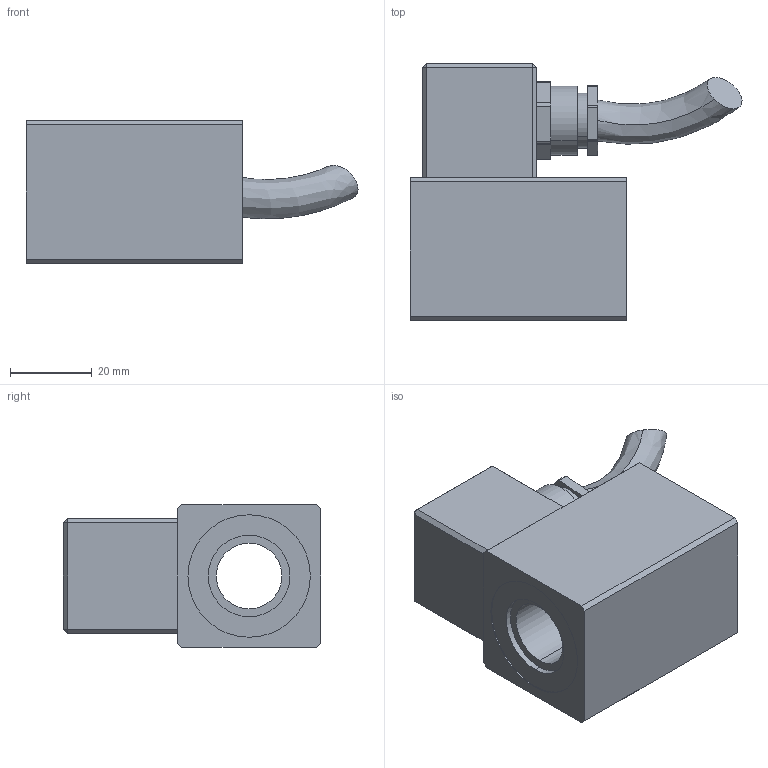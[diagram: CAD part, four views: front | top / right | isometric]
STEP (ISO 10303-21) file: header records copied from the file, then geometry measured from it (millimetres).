
FILE_DESCRIPTION (( 'STEP AP214' ), '1' );
FILE_NAME ('MKS35_16x50-M28-DC.STEP', '2015-07-07T05:02:04', ( '' ), ( '' ), 'SwSTEP 2.0', 'SolidWorks 2014', '' );
FILE_SCHEMA (( 'AUTOMOTIVE_DESIGN' ));
Length unit declared in the file: millimetre
Products named in the file (2): MKS35_16x50-M28-DC
Bounding box: 81.36 x 63 x 35 mm (x, y, z)
Volume: 79164.9 mm3; surface area: 19301 mm2
Topology: 2 solids, 8 shells, 204 faces, 482 edges, 304 vertices
Faces by surface type: plane 114, cylinder 68, torus 10, cone 10, bspline 2
Entity records: 8398 total; most frequent: CARTESIAN_POINT 1427, DIRECTION 1042, ORIENTED_EDGE 956, EDGE_CURVE 478, AXIS2_PLACEMENT_3D 391, VERTEX_POINT 304, VECTOR 260, LINE 260
